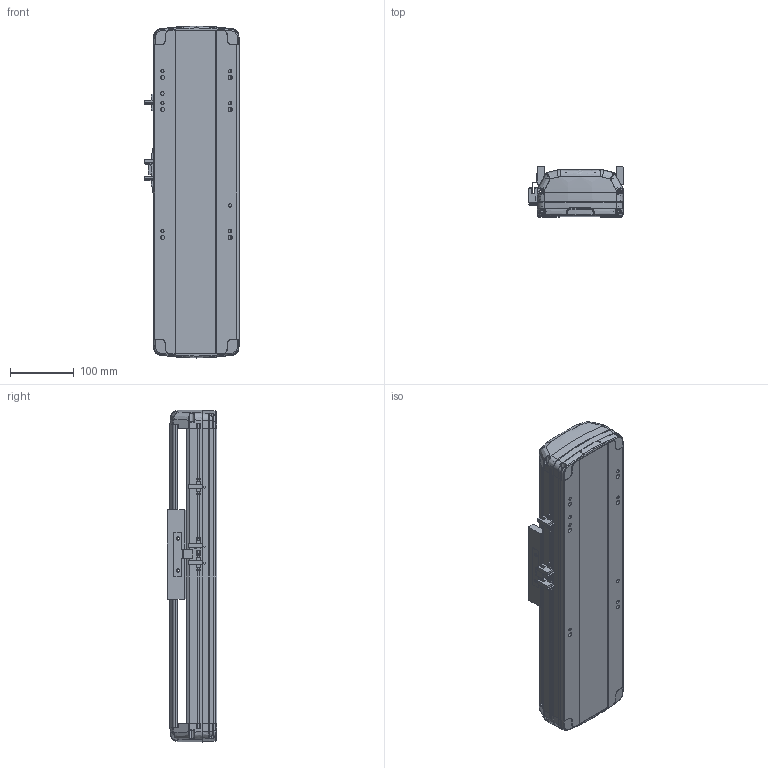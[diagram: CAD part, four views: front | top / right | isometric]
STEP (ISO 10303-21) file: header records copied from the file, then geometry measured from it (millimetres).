
FILE_DESCRIPTION (( 'STEP AP214' ), '1' );
FILE_NAME ('RTH14-XX-100-B-M20B-C4.STEP', '2025-10-24T08:26:12', ( 'Microsoft' ), ( 'Microsoft' ), 'SwSTEP 2.0', 'SolidWorks 2018', '' );
FILE_SCHEMA (( 'AUTOMOTIVE_DESIGN' ));
Length unit declared in the file: millimetre
Products named in the file (7): N_RTH14-R-004-SFSR16賑釱^RTH14-XX-XX-B-M20B-C4; N_RTH14-B-011PB菁釱^RTH14-XX-XX-B-M20B-C4; N_RTH14-B-007B奻裔^RTH14-XX-XX-B-M20B-C4; N_RTH13-L-012感应片（外置）^RTH14-XX-XX-B-M20B-C4; N_OMRON EE-SX672 传感器^RTH14-XX-XX-B-M20B-C4; RTH14-XX-100-B-M20B-C4; N_RTH14-GY-001P^RTH14-XX-XX-B-M20B-C4
Assembly tree (9 placements, depth 2):
  RTH14-XX-100-B-M20B-C4
    N_RTH14-B-011PB菁釱^RTH14-XX-XX-B-M20B-C4
    N_RTH14-B-007B奻裔^RTH14-XX-XX-B-M20B-C4
    N_RTH13-L-012感应片（外置）^RTH14-XX-XX-B-M20B-C4
    N_OMRON EE-SX672 传感器^RTH14-XX-XX-B-M20B-C4  x3
    N_RTH14-R-004-SFSR16賑釱^RTH14-XX-XX-B-M20B-C4
    N_RTH14-GY-001P^RTH14-XX-XX-B-M20B-C4  x2
Bounding box: 148.5 x 78.03 x 518.99 mm (x, y, z)
Volume: 2328574.8 mm3; surface area: 554843.2 mm2
Topology: 9 solids, 9 shells, 1882 faces, 5296 edges, 3446 vertices
Faces by surface type: plane 971, bspline 450, cylinder 397, cone 56, torus 8
Entity records: 45288 total; most frequent: CARTESIAN_POINT 20538, ORIENTED_EDGE 5608, DIRECTION 4047, EDGE_CURVE 2804, VERTEX_POINT 1832, VECTOR 1595, LINE 1595, AXIS2_PLACEMENT_3D 1226
